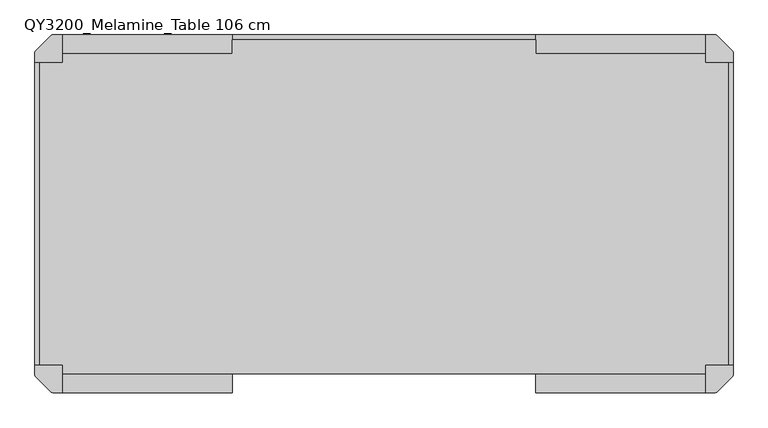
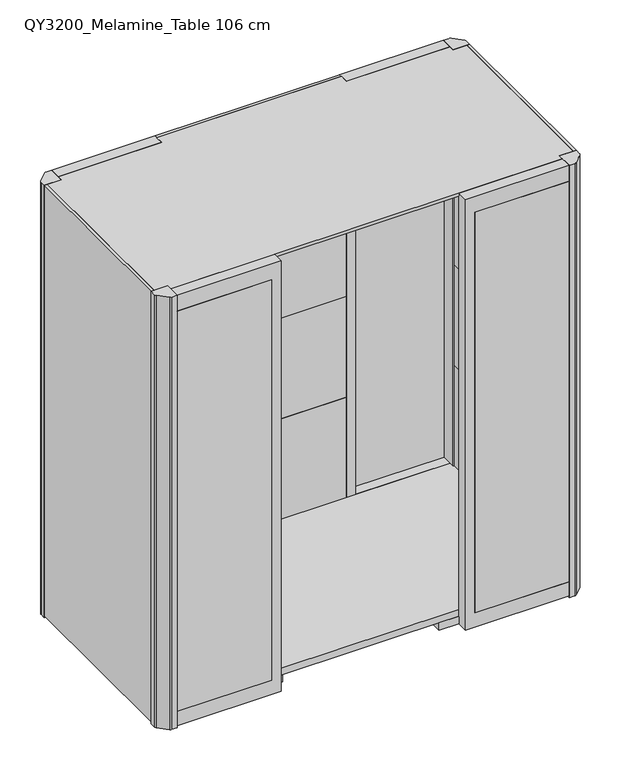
"""IFC4 building model written with IfcOpenShell, lengths in millimetres: furniture geometry, Qyos_200 : QY3200_Melamine_Table 106 cm."""

import ifcopenshell
import ifcopenshell.guid

model = None  # the IFC model being written
_history = None  # IfcOwnerHistory: only IFC2X3 demands one
_inside = {}  # id of a spatial element -> (the spatial element, [elements in it])
_under = {}  # id of a project, library or spatial element -> (it, [spatial elements below it])
_declared = {}  # id of a project -> (the project, [libraries it declares])
_typed = {}  # id of a type object -> (the type object, [elements of that type])
_made_of = {}  # id of a material, layer set ... -> (it, [elements and type objects made of it])


def new_model(schema):
    """Start an empty IFC model of exactly this schema.

    Asked for "IFC4X3", IfcOpenShell would pick the latest addendum, in which some entities
    have other attributes; the version numbers below select the first issue.
    IFC2X3 requires an IfcOwnerHistory on every rooted entity: one is made here for all.
    """
    global model, _history
    if schema == "IFC4X3":
        model = ifcopenshell.file(schema_version=(4, 3, 0, 0))
    else:
        model = ifcopenshell.file(schema=schema)
    _inside.clear()
    _under.clear()
    _declared.clear()
    _typed.clear()
    _made_of.clear()
    _history = None
    if model.schema == "IFC2X3":
        org = make("IfcOrganization", Name="unknown")
        user = make(
            "IfcPersonAndOrganization",
            ThePerson=make("IfcPerson", FamilyName="unknown"),
            TheOrganization=org,
        )
        app = make(
            "IfcApplication",
            ApplicationDeveloper=org,
            Version="unknown",
            ApplicationFullName="unknown",
            ApplicationIdentifier="unknown",
        )
        _history = make(
            "IfcOwnerHistory",
            OwningUser=user,
            OwningApplication=app,
            ChangeAction="ADDED",
            CreationDate=0,
        )
    return model


def make(cls, **values):
    """One entity of the class cls with the attributes given. An attribute that is None is left unset."""
    return model.create_entity(
        cls, **{name: value for name, value in values.items() if value is not None}
    )


def rooted(cls, **values):
    """An entity with a GlobalId (a new one), such as an element, a storey or a relation."""
    return make(cls, GlobalId=ifcopenshell.guid.new(), OwnerHistory=_history, **values)


def si_unit(unit_type, name, prefix=None):
    """IfcSIUnit, for example si_unit("LENGTHUNIT", "METRE", prefix="MILLI")."""
    return make("IfcSIUnit", UnitType=unit_type, Prefix=prefix, Name=name)


def assignment(units):
    """IfcUnitAssignment: the units of a project."""
    return None if units is None else make("IfcUnitAssignment", Units=units)


def point(xyz):
    """IfcCartesianPoint."""
    return None if xyz is None else make("IfcCartesianPoint", Coordinates=xyz)


def direction(xyz):
    """IfcDirection."""
    return None if xyz is None else make("IfcDirection", DirectionRatios=xyz)


def frame(location, z_axis=None, x_axis=None):
    """IfcAxis2Placement3D, a coordinate frame: its origin and axes. An axis left out is left unset."""
    return make(
        "IfcAxis2Placement3D",
        Location=point(location),
        Axis=direction(z_axis),
        RefDirection=direction(x_axis),
    )


def frame_2d(location, x_axis=None):
    """IfcAxis2Placement2D, a coordinate frame in the plane: its origin and x axis."""
    return make(
        "IfcAxis2Placement2D", Location=point(location), RefDirection=direction(x_axis)
    )


def origin():
    """The frame at (0, 0, 0) with its axes left unset."""
    return frame((0.0, 0.0, 0.0))


def origin_with_axes():
    """The frame at (0, 0, 0) with the z axis (0, 0, 1) and the x axis (1, 0, 0) written out."""
    return frame((0.0, 0.0, 0.0), z_axis=(0.0, 0.0, 1.0), x_axis=(1.0, 0.0, 0.0))


def place(relative_to, where):
    """IfcLocalPlacement: puts the frame where relative to a parent placement (None: the world)."""
    return make(
        "IfcLocalPlacement", PlacementRelTo=relative_to, RelativePlacement=where
    )


def context(
    kind, dimensions, precision=None, world=None, true_north=None, identifier=None
):
    """IfcGeometricRepresentationContext, for example the 3D "Model" context."""
    return make(
        "IfcGeometricRepresentationContext",
        ContextIdentifier=identifier,
        ContextType=kind,
        CoordinateSpaceDimension=dimensions,
        Precision=precision,
        WorldCoordinateSystem=world,
        TrueNorth=true_north,
    )


def project(units=None, contexts=None):
    """IfcProject with its units and contexts."""
    return rooted(
        "IfcProject",
        Name="project",
        RepresentationContexts=contexts,
        UnitsInContext=assignment(units),
    )


def spatial(cls, under=None, at=None, **own):
    """A site, building, storey or space (cls), placed at a placement, below another one or the project."""
    s = rooted(cls, ObjectPlacement=at, **own)
    if under is not None:
        _under.setdefault(under.id(), (under, []))[1].append(s)
    return s


def polyline(points):
    """IfcPolyline through the points."""
    return make("IfcPolyline", Points=[point(p) for p in points])


def circle_curve(where, radius):
    """IfcCircle in the frame where."""
    return make("IfcCircle", Position=where, Radius=radius)


def trimmed(basis, trim1, trim2, sense, master):
    """IfcTrimmedCurve: the piece of a basis curve between two trims."""
    return make(
        "IfcTrimmedCurve",
        BasisCurve=basis,
        Trim1=trim1,
        Trim2=trim2,
        SenseAgreement=sense,
        MasterRepresentation=master,
    )


def segment(curve, same_sense, transition):
    """IfcCompositeCurveSegment."""
    return make(
        "IfcCompositeCurveSegment",
        Transition=transition,
        SameSense=same_sense,
        ParentCurve=curve,
    )


def composite_curve(segments, self_intersect=None):
    """IfcCompositeCurve: segments joined end to end."""
    return make("IfcCompositeCurve", Segments=segments, SelfIntersect=self_intersect)


def outline(outer, holes=None, kind="AREA"):
    """IfcArbitraryClosedProfileDef: a profile drawn as a closed curve; with holes, ...WithVoids."""
    if holes is None:
        return make("IfcArbitraryClosedProfileDef", ProfileType=kind, OuterCurve=outer)
    return make(
        "IfcArbitraryProfileDefWithVoids",
        ProfileType=kind,
        OuterCurve=outer,
        InnerCurves=holes,
    )


def extrude(swept, where, along, depth):
    """IfcExtrudedAreaSolid: the profile swept, set in the frame where, extruded along a direction by depth."""
    return make(
        "IfcExtrudedAreaSolid",
        SweptArea=swept,
        Position=where,
        ExtrudedDirection=direction(along),
        Depth=depth,
    )


def shape(context_of_items, identifier, shape_type, items):
    """IfcShapeRepresentation: the items that make up one representation, for example the "Body"."""
    return make(
        "IfcShapeRepresentation",
        ContextOfItems=context_of_items,
        RepresentationIdentifier=identifier,
        RepresentationType=shape_type,
        Items=items,
    )


def source(mapping_origin, context_of_items, identifier, shape_type, items):
    """IfcRepresentationMap: a shape defined once, which mapped items show again and again."""
    return make(
        "IfcRepresentationMap",
        MappingOrigin=mapping_origin,
        MappedRepresentation=shape(context_of_items, identifier, shape_type, items),
    )


def transform(
    local_origin,
    x_axis=None,
    y_axis=None,
    z_axis=None,
    scale=None,
    scale2=None,
    scale3=None,
    uniform=True,
):
    """IfcCartesianTransformationOperator3D, or its non-uniform kind. x_axis, y_axis, z_axis: its Axis1, 2, 3."""
    if uniform:
        return make(
            "IfcCartesianTransformationOperator3D",
            Axis1=direction(x_axis),
            Axis2=direction(y_axis),
            LocalOrigin=point(local_origin),
            Scale=scale,
            Axis3=direction(z_axis),
        )
    return make(
        "IfcCartesianTransformationOperator3DnonUniform",
        Axis1=direction(x_axis),
        Axis2=direction(y_axis),
        LocalOrigin=point(local_origin),
        Scale=scale,
        Axis3=direction(z_axis),
        Scale2=scale2,
        Scale3=scale3,
    )


def mapped(mapping_source, mapping_target):
    """IfcMappedItem: shows the shape of a source again, moved by a transform."""
    return make(
        "IfcMappedItem", MappingSource=mapping_source, MappingTarget=mapping_target
    )


def made_of(thing, what):
    """Note that an element or type object is made of a material, layer set ...; save() writes the relation."""
    if what is not None:
        _made_of.setdefault(what.id(), (what, []))[1].append(thing)
    return thing


def element(
    cls,
    number,
    at=None,
    inside=None,
    cuts=None,
    type_object=None,
    material=None,
    context=None,
    identifier="Body",
    shape_type=None,
    held_by="IfcProductDefinitionShape",
    body=None,
    shapes=None,
    **own,
):
    """One element of the class cls, such as IfcWall. Its Tag is "e" and its number.

    at: its placement. inside: the storey or other place that contains it. cuts: it is an
    opening in that element (IfcRelVoidsElement). A single representation is given by context,
    identifier, shape_type and body (its items); several are given by shapes. held_by: the class
    of the entity that holds the representations. save() writes the other relations.
    """
    e = rooted(cls, Tag="e%d" % number, ObjectPlacement=at, **own)
    if body is not None:
        shapes = [shape(context, identifier, shape_type, body)]
    if shapes is not None:
        e.Representation = make(held_by, Representations=shapes)
    if inside is not None:
        _inside.setdefault(inside.id(), (inside, []))[1].append(e)
    if cuts is not None:
        rooted(
            "IfcRelVoidsElement", RelatingBuildingElement=cuts, RelatedOpeningElement=e
        )
    if type_object is not None:
        _typed.setdefault(type_object.id(), (type_object, []))[1].append(e)
    return made_of(e, material)


def aggregate(whole, parts):
    """IfcRelAggregates: a whole, such as a stair, and the parts it consists of."""
    return rooted("IfcRelAggregates", RelatingObject=whole, RelatedObjects=parts)


def save(model, path):
    """Write the relations noted so far, then the file.

    IfcRelAggregates (storeys below a building ...), IfcRelContainedInSpatialStructure (elements
    in a storey), IfcRelDefinesByType, IfcRelAssociatesMaterial and IfcRelDeclares: one each for
    every whole, place, type object, material and project.
    """
    for whole, parts in _under.values():
        aggregate(whole, parts)
    for where, things in _inside.values():
        rooted(
            "IfcRelContainedInSpatialStructure",
            RelatedElements=things,
            RelatingStructure=where,
        )
    for kind, things in _typed.values():
        rooted("IfcRelDefinesByType", RelatedObjects=things, RelatingType=kind)
    for what, things in _made_of.values():
        rooted("IfcRelAssociatesMaterial", RelatedObjects=things, RelatingMaterial=what)
    for by, libraries in _declared.values():
        rooted("IfcRelDeclares", RelatingContext=by, RelatedDefinitions=libraries)
    model.write(path)


def plane_surface(at):
    """IfcPlane: the flat surface through the origin of the frame at, square to its z axis."""
    return make("IfcPlane", Position=at)


def cylinder_surface(at, radius):
    """IfcCylindricalSurface: all points at the distance radius from the z axis of the frame at."""
    return make("IfcCylindricalSurface", Position=at, Radius=radius)


def advanced_brep(points, edges, surfaces, faces):
    """IfcAdvancedBrep: a solid bounded by faces that lie on surfaces and meet in shared edges.

    An edge is (start, end): straight between two places in points (the first is 0);
    or (start, end, curve); or (start, end, curve, False) where it runs against its curve.
    A face is (place in surfaces, loops), or (place, loops, False) where it looks against
    its surface's normal. A loop lists edges by number (the first is 1), with a minus sign
    where the edge is run from its end to its start. The first loop is the outer one.
    """
    corners = [point(p) for p in points]
    vertices = [make("IfcVertexPoint", VertexGeometry=c) for c in corners]
    made = []
    for start, end, *more in edges:
        made.append(
            make(
                "IfcEdgeCurve",
                EdgeStart=vertices[start],
                EdgeEnd=vertices[end],
                EdgeGeometry=more[0] if more else make("IfcPolyline", Points=[corners[start], corners[end]]),
                SameSense=more[1] if len(more) > 1 else True,
            )
        )
    hull = []
    for where, loops, *sense in faces:
        bounds = []
        for j, loop in enumerate(loops):
            ring = [make("IfcOrientedEdge", EdgeElement=made[abs(k) - 1], Orientation=k > 0) for k in loop]
            bounds.append(
                make(
                    "IfcFaceOuterBound" if j == 0 else "IfcFaceBound",
                    Bound=make("IfcEdgeLoop", EdgeList=ring),
                    Orientation=True,
                )
            )
        hull.append(make("IfcAdvancedFace", Bounds=bounds, FaceSurface=surfaces[where], SameSense=sense[0] if sense else True))
    return make("IfcAdvancedBrep", Outer=make("IfcClosedShell", CfsFaces=hull))


def qy3200_melamine_table_106_cm_40c4295e(model_context):
    return source(origin(), model_context, "Body", "SolidModel", [
        advanced_brep(
        [(853.8585356, 382.0, 0.0), (900.1414644, 382.0, 0.0), (877.0, 382.0, 0.0), (853.8585356, 382.0, 7.0), (900.1414644, 382.0, 7.0), (867.3615446, 382.0, 7.0), (886.6384554, 382.0, 7.0), (867.3615446, 382.0, 17.0), (886.6384554, 382.0, 17.0), (877.0, 382.0, 17.0)],
        [
            (0, 1, circle_curve(frame((877.0, 382.0, 0.0), z_axis=(0.0, 0.0, -1.0), x_axis=(1.0, 0.0, 0.0)), 23.1414644)),
            (1, 2),
            (2, 0),
            (1, 0, circle_curve(frame((877.0, 382.0, 0.0), z_axis=(0.0, 0.0, -1.0), x_axis=(1.0, 0.0, 0.0)), 23.1414644)),
            (3, 4, circle_curve(frame((877.0, 382.0, 7.0), z_axis=(0.0, 0.0, -1.0), x_axis=(1.0, 0.0, 0.0)), 23.1414644)),
            (4, 1),
            (0, 3),
            (4, 3, circle_curve(frame((877.0, 382.0, 7.0), z_axis=(0.0, 0.0, -1.0), x_axis=(1.0, 0.0, 0.0)), 23.1414644)),
            (5, 6, circle_curve(frame((877.0, 382.0, 7.0), z_axis=(0.0, 0.0, -1.0), x_axis=(1.0, 0.0, 0.0)), 9.6384554)),
            (6, 4),
            (3, 5),
            (6, 5, circle_curve(frame((877.0, 382.0, 7.0), z_axis=(0.0, 0.0, -1.0), x_axis=(1.0, 0.0, 0.0)), 9.6384554)),
            (7, 8, circle_curve(frame((877.0, 382.0, 17.0), z_axis=(0.0, 0.0, -1.0), x_axis=(1.0, 0.0, 0.0)), 9.6384554)),
            (8, 6),
            (5, 7),
            (8, 7, circle_curve(frame((877.0, 382.0, 17.0), z_axis=(0.0, 0.0, -1.0), x_axis=(1.0, 0.0, 0.0)), 9.6384554)),
            (9, 8),
            (7, 9),
        ],
        [
            plane_surface(frame((877.0, 382.0, 0.0), z_axis=(0.0, 0.0, -1.0), x_axis=(1.0, 0.0, 0.0))),
            cylinder_surface(frame((877.0, 382.0, 1997.4144888), z_axis=(0.0, 0.0, 1.0), x_axis=(1.0, 0.0, 0.0)), 23.1414644),
            plane_surface(frame((877.0, 382.0, 7.0), z_axis=(0.0, 0.0, 1.0), x_axis=(1.0, 0.0, 0.0))),
            cylinder_surface(frame((877.0, 382.0, 1997.4144888), z_axis=(0.0, 0.0, 1.0), x_axis=(1.0, 0.0, 0.0)), 9.6384554),
            plane_surface(frame((877.0, 382.0, 17.0), z_axis=(0.0, 0.0, 1.0), x_axis=(1.0, 0.0, 0.0))),
        ],
        [
            (0, [[1, 2, 3]]),
            (0, [[4, -3, -2]]),
            (1, [[5, 6, -1, 7]]),
            (1, [[8, -7, -4, -6]]),
            (2, [[9, 10, -5, 11]]),
            (2, [[12, -11, -8, -10]]),
            (3, [[13, 14, -9, 15]]),
            (3, [[16, -15, -12, -14]]),
            (4, [[17, -13, 18]]),
            (4, [[-18, -16, -17]]),
        ],
    ),
        extrude(outline(composite_curve([segment(trimmed(circle_curve(frame_2d((877.0, 382.0)), 23.1414644), [point((853.8585356, 382.0))], [point((900.1414644, 382.0))], False, "CARTESIAN"), True, "CONTINUOUS"), segment(trimmed(circle_curve(frame_2d((877.0, 382.0)), 23.1414644), [point((900.1414644, 382.0))], [point((853.8585356, 382.0))], False, "CARTESIAN"), True, "CONTINUOUS")], self_intersect=False)), origin_with_axes(), (0.0, 0.0, 1.0), 7.0),
        extrude(outline(composite_curve([segment(polyline([(-945.0, 445.0), (-1025.0, 445.0), (-1025.0, 472.5536246)]), True, "CONTINUOUS"), segment(trimmed(circle_curve(frame_2d((-1013.0024364, 472.3118252)), 12.0), [point((-1025.0, 472.5536246))], [point((-1021.7960176, 480.4771745))], False, "CARTESIAN"), True, "CONTINUOUS"), segment(trimmed(circle_curve(frame_2d((-443.4303831, -56.568803)), 789.2560985), [point((-1021.7960176, 480.4771745))], [point((-980.4763607, 521.7968315))], False, "CARTESIAN"), True, "CONTINUOUS"), segment(trimmed(circle_curve(frame_2d((-972.3110114, 513.0032502)), 12.0), [point((-980.4763607, 521.7968315))], [point((-972.5902872, 525.0))], False, "CARTESIAN"), True, "CONTINUOUS"), segment(polyline([(-972.5902872, 525.0), (-945.0, 525.0), (-945.0, 445.0)]), True, "CONTINUOUS")], self_intersect=False)), origin_with_axes(), (0.0, 0.0, 1.0), 2202.1),
        extrude(outline(composite_curve([segment(polyline([(945.0, 445.0), (945.0, 525.0), (972.5536246, 525.0)]), True, "CONTINUOUS"), segment(trimmed(circle_curve(frame_2d((972.3118252, 513.0024364)), 12.0), [point((972.5536246, 525.0))], [point((980.4771745, 521.7960176))], False, "CARTESIAN"), True, "CONTINUOUS"), segment(trimmed(circle_curve(frame_2d((443.431197, -56.5696169)), 789.2560985), [point((980.4771745, 521.7960176))], [point((1021.7968315, 480.4763607))], False, "CARTESIAN"), True, "CONTINUOUS"), segment(trimmed(circle_curve(frame_2d((1013.0032502, 472.3110114)), 12.0), [point((1021.7968315, 480.4763607))], [point((1025.0, 472.5902872))], False, "CARTESIAN"), True, "CONTINUOUS"), segment(polyline([(1025.0, 472.5902872), (1025.0, 445.0), (945.0, 445.0)]), True, "CONTINUOUS")], self_intersect=False)), origin_with_axes(), (0.0, 0.0, 1.0), 2202.1),
        extrude(outline(composite_curve([segment(polyline([(945.0, -445.0), (1025.0, -445.0), (1025.0, -472.5536246)]), True, "CONTINUOUS"), segment(trimmed(circle_curve(frame_2d((1013.0024364, -472.3118252)), 12.0), [point((1025.0, -472.5536246))], [point((1021.7960176, -480.4771745))], False, "CARTESIAN"), True, "CONTINUOUS"), segment(trimmed(circle_curve(frame_2d((443.4303831, 56.568803)), 789.2560985), [point((1021.7960176, -480.4771745))], [point((980.4763607, -521.7968315))], False, "CARTESIAN"), True, "CONTINUOUS"), segment(trimmed(circle_curve(frame_2d((972.3110114, -513.0032502)), 12.0), [point((980.4763607, -521.7968315))], [point((972.5902872, -525.0))], False, "CARTESIAN"), True, "CONTINUOUS"), segment(polyline([(972.5902872, -525.0), (945.0, -525.0), (945.0, -445.0)]), True, "CONTINUOUS")], self_intersect=False)), origin_with_axes(), (0.0, 0.0, 1.0), 2202.1),
        extrude(outline(composite_curve([segment(polyline([(-945.0, -445.0), (-945.0, -525.0), (-972.5536246, -525.0)]), True, "CONTINUOUS"), segment(trimmed(circle_curve(frame_2d((-972.3118252, -513.0024364)), 12.0), [point((-972.5536246, -525.0))], [point((-980.4771745, -521.7960176))], False, "CARTESIAN"), True, "CONTINUOUS"), segment(trimmed(circle_curve(frame_2d((-443.431197, 56.5696169)), 789.2560985), [point((-980.4771745, -521.7960176))], [point((-1021.7968315, -480.4763607))], False, "CARTESIAN"), True, "CONTINUOUS"), segment(trimmed(circle_curve(frame_2d((-1013.0032502, -472.3110114)), 12.0), [point((-1021.7968315, -480.4763607))], [point((-1025.0, -472.5902872))], False, "CARTESIAN"), True, "CONTINUOUS"), segment(polyline([(-1025.0, -472.5902872), (-1025.0, -445.0), (-945.0, -445.0)]), True, "CONTINUOUS")], self_intersect=False)), origin_with_axes(), (0.0, 0.0, 1.0), 2202.1),
        extrude(outline(polyline([(-445.0, 470.0), (-445.0, 511.0), (445.0, 511.0), (445.0, 470.0), (945.0, 470.0), (945.0, 445.0), (1011.0, 445.0), (1011.0, -445.0), (945.0, -445.0), (945.0, -469.9956819), (-945.0, -469.9956819), (-945.0, -445.0), (-1011.0, -445.0), (-1011.0, 445.0), (-945.0, 445.0), (-945.0, 470.0), (-445.0, 470.0)])), frame((0.0, 0.0, 2186.1), z_axis=(0.0, 0.0, 1.0), x_axis=(1.0, 0.0, 0.0)), (0.0, 0.0, 1.0), 16.0),
        extrude(outline(polyline([(-945.0, 525.0), (-490.0089845, 525.0), (-490.0089845, 520.0), (-945.0, 520.0), (-945.0, 525.0)])), frame((0.0, 0.0, 82.0), z_axis=(0.0, 0.0, 1.0), x_axis=(1.0, 0.0, 0.0)), (0.0, 0.0, 1.0), 2040.1),
        extrude(outline(polyline([(490.0089845, 525.0), (945.0, 525.0), (945.0, 520.0), (490.0089845, 520.0), (490.0089845, 525.0)])), frame((0.0, 0.0, 82.0), z_axis=(0.0, 0.0, 1.0), x_axis=(1.0, 0.0, 0.0)), (0.0, 0.0, 1.0), 2040.1),
        extrude(outline(polyline([(2122.1, -490.0089845), (82.0, -490.0089845), (82.0, -945.0), (10.0, -945.0), (10.0, -445.0), (2202.1, -445.0), (2202.1, -945.0), (2122.1, -945.0), (2122.1, -490.0089845)])), frame((0.0, 469.9956819, 0.0), z_axis=(0.0, 1.0, 0.0), x_axis=(0.0, 0.0, 1.0)), (0.0, 0.0, 1.0), 55.0043181),
        extrude(outline(polyline([(2122.1, 490.0089845), (2122.1, 945.0), (2202.1, 945.0), (2202.1, 445.0), (10.0, 445.0), (10.0, 945.0), (82.0, 945.0), (82.0, 490.0089845), (2122.1, 490.0089845)])), frame((0.0, 469.9956819, 0.0), z_axis=(0.0, 1.0, 0.0), x_axis=(0.0, 0.0, 1.0)), (0.0, 0.0, 1.0), 55.0043181),
        extrude(outline(polyline([(-490.0089845, -525.0), (-945.0, -525.0), (-945.0, -520.0), (-490.0089845, -520.0), (-490.0089845, -525.0)])), frame((0.0, 0.0, 82.0), z_axis=(0.0, 0.0, 1.0), x_axis=(1.0, 0.0, 0.0)), (0.0, 0.0, 1.0), 2040.1),
        extrude(outline(polyline([(945.0, -525.0), (490.0089845, -525.0), (490.0089845, -520.0), (945.0, -520.0), (945.0, -525.0)])), frame((0.0, 0.0, 82.0), z_axis=(0.0, 0.0, 1.0), x_axis=(1.0, 0.0, 0.0)), (0.0, 0.0, 1.0), 2040.1),
        extrude(outline(polyline([(-857.0, -469.9956819), (-897.0, -469.9956819), (-897.0, 470.0), (-857.0, 470.0), (-857.0, -469.9956819)])), frame((0.0, 0.0, 10.0), z_axis=(0.0, 0.0, 1.0), x_axis=(1.0, 0.0, 0.0)), (0.0, 0.0, 1.0), 37.0),
        extrude(outline(polyline([(-405.0, -469.9956819), (-445.0, -469.9956819), (-445.0, 470.0), (-405.0, 470.0), (-405.0, -469.9956819)])), frame((0.0, 0.0, 10.0), z_axis=(0.0, 0.0, 1.0), x_axis=(1.0, 0.0, 0.0)), (0.0, 0.0, 1.0), 37.0),
        extrude(outline(polyline([(897.0, -469.9956819), (857.0, -469.9956819), (857.0, 470.0), (897.0, 470.0), (897.0, -469.9956819)])), frame((0.0, 0.0, 10.0), z_axis=(0.0, 0.0, 1.0), x_axis=(1.0, 0.0, 0.0)), (0.0, 0.0, 1.0), 37.0),
        extrude(outline(polyline([(349.5486306, 470.0), (445.0557256, 470.0), (445.0557256, -469.9956819), (349.5486306, -469.9956819), (349.5486306, 470.0)])), frame((0.0, 0.0, 10.0), z_axis=(0.0, 0.0, 1.0), x_axis=(1.0, 0.0, 0.0)), (0.0, 0.0, 1.0), 37.0),
        extrude(outline(polyline([(2122.1, -490.0089845), (82.0, -490.0089845), (82.0, -945.0), (10.0, -945.0), (10.0, -445.0), (2202.1, -445.0), (2202.1, -945.0), (2122.1, -945.0), (2122.1, -490.0089845)])), frame((0.0, -525.0, 0.0), z_axis=(0.0, 1.0, 0.0), x_axis=(0.0, 0.0, 1.0)), (0.0, 0.0, 1.0), 55.0043181),
        extrude(outline(polyline([(2122.1, 490.0089845), (2122.1, 945.0), (2202.1, 945.0), (2202.1, 445.0), (10.0, 445.0), (10.0, 945.0), (82.0, 945.0), (82.0, 490.0089845), (2122.1, 490.0089845)])), frame((0.0, -525.0, 0.0), z_axis=(0.0, 1.0, 0.0), x_axis=(0.0, 0.0, 1.0)), (0.0, 0.0, 1.0), 55.0043181),
        extrude(outline(polyline([(-951.0, 445.0), (-945.0, 445.0), (-945.0, 470.0), (945.0, 470.0), (945.0, 445.0), (951.0, 445.0), (951.0, -445.0), (945.0, -445.0), (945.0, -469.9956819), (-945.0, -469.9956819), (-945.0, -445.0), (-951.0, -445.0), (-951.0, 445.0)])), frame((0.0, 0.0, 47.0), z_axis=(0.0, 0.0, 1.0), x_axis=(1.0, 0.0, 0.0)), (0.0, 0.0, 1.0), 35.0),
        extrude(outline(polyline([(970.0, -444.9498873), (951.0, -444.9498873), (951.0, 445.0024364), (970.0, 445.0024364), (970.0, -444.9498873)])), frame((0.0, 0.0, 1617.9823403), z_axis=(0.0, 0.0, 1.0), x_axis=(1.0, 0.0, 0.0)), (0.0, 0.0, 1.0), 504.1176597),
        extrude(outline(polyline([(-970.0, -445.0), (-970.0, 445.0), (-951.0, 445.0), (-951.0, -445.0), (-970.0, -445.0)])), frame((0.0, 0.0, 1617.9823403), z_axis=(0.0, 0.0, 1.0), x_axis=(1.0, 0.0, 0.0)), (0.0, 0.0, 1.0), 504.1176597),
        extrude(outline(polyline([(-445.0, 470.0), (-445.0, 489.0), (445.0557256, 489.0), (445.0557256, 470.0), (-445.0, 470.0)])), frame((0.0, 0.0, 1617.9823403), z_axis=(0.0, 0.0, 1.0), x_axis=(1.0, 0.0, 0.0)), (0.0, 0.0, 1.0), 504.1176597),
        extrude(outline(polyline([(970.0, -445.0), (951.0, -445.0), (951.0, 445.0), (970.0, 445.0), (970.0, -445.0)])), frame((0.0, 0.0, 1106.0116287), z_axis=(0.0, 0.0, 1.0), x_axis=(1.0, 0.0, 0.0)), (0.0, 0.0, 1.0), 511.9707116),
        extrude(outline(polyline([(-970.0, -445.0), (-970.0, 445.0), (-951.0, 445.0), (-951.0, -445.0), (-970.0, -445.0)])), frame((0.0, 0.0, 1106.0116287), z_axis=(0.0, 0.0, 1.0), x_axis=(1.0, 0.0, 0.0)), (0.0, 0.0, 1.0), 511.9707116),
        extrude(outline(polyline([(-445.0, 470.0), (-445.0, 489.0), (445.0557256, 489.0), (445.0557256, 470.0), (-445.0, 470.0)])), frame((0.0, 0.0, 1106.0116287), z_axis=(0.0, 0.0, 1.0), x_axis=(1.0, 0.0, 0.0)), (0.0, 0.0, 1.0), 511.9707116),
        extrude(outline(polyline([(970.0, -445.0), (951.0, -445.0), (951.0, 445.0), (970.0, 445.0), (970.0, -445.0)])), frame((0.0, 0.0, 593.9823403), z_axis=(0.0, 0.0, 1.0), x_axis=(1.0, 0.0, 0.0)), (0.0, 0.0, 1.0), 512.0292884),
        extrude(outline(polyline([(-970.0, -445.0), (-970.0, 445.0), (-951.0, 445.0), (-951.0, -445.0), (-970.0, -445.0)])), frame((0.0, 0.0, 593.9823403), z_axis=(0.0, 0.0, 1.0), x_axis=(1.0, 0.0, 0.0)), (0.0, 0.0, 1.0), 512.0292884),
        extrude(outline(polyline([(-445.0, 470.0), (-445.0, 489.0), (445.0557256, 489.0), (445.0557256, 470.0), (-445.0, 470.0)])), frame((0.0, 0.0, 593.9823403), z_axis=(0.0, 0.0, 1.0), x_axis=(1.0, 0.0, 0.0)), (0.0, 0.0, 1.0), 512.0292884),
        extrude(outline(polyline([(970.0, -445.0), (951.0, -445.0), (951.0, 445.0), (970.0, 445.0), (970.0, -445.0)])), frame((0.0, 0.0, 77.0), z_axis=(0.0, 0.0, 1.0), x_axis=(1.0, 0.0, 0.0)), (0.0, 0.0, 1.0), 516.9823403),
        extrude(outline(polyline([(-970.0, -445.0), (-970.0, 445.0), (-951.0, 445.0), (-951.0, -445.0), (-970.0, -445.0)])), frame((0.0, 0.0, 77.0), z_axis=(0.0, 0.0, 1.0), x_axis=(1.0, 0.0, 0.0)), (0.0, 0.0, 1.0), 516.9823403),
        extrude(outline(polyline([(-445.0, 470.0), (-445.0, 489.0), (445.0557256, 489.0), (445.0557256, 470.0), (-445.0, 470.0)])), frame((0.0, 0.0, 77.0), z_axis=(0.0, 0.0, 1.0), x_axis=(1.0, 0.0, 0.0)), (0.0, 0.0, 1.0), 516.9823403),
        extrude(outline(polyline([(-1025.0, -445.0), (-1025.0, 445.0), (-1011.0, 445.0), (-1011.0, -445.0), (-1025.0, -445.0)])), frame((0.0, 0.0, 10.0), z_axis=(0.0, 0.0, 1.0), x_axis=(1.0, 0.0, 0.0)), (0.0, 0.0, 1.0), 2192.1),
        extrude(outline(polyline([(1025.0, -445.0), (1011.0, -445.0), (1011.0, 445.0), (1025.0, 445.0), (1025.0, -445.0)])), frame((0.0, 0.0, 10.0), z_axis=(0.0, 0.0, 1.0), x_axis=(1.0, 0.0, 0.0)), (0.0, 0.0, 1.0), 2192.1),
        extrude(outline(polyline([(445.0557256, 525.0), (445.0557256, 511.0), (-445.0, 511.0), (-445.0, 525.0), (445.0557256, 525.0)])), frame((0.0, 0.0, 10.0), z_axis=(0.0, 0.0, 1.0), x_axis=(1.0, 0.0, 0.0)), (0.0, 0.0, 1.0), 2192.1),
    ])


if __name__ == "__main__":
    model = new_model("IFC4")
    model_context = context("Model", 3, world=origin())
    ifc_project = project(units=[si_unit("LENGTHUNIT", "METRE", prefix="MILLI")], contexts=[model_context])
    site = spatial("IfcSite", under=ifc_project)
    building = spatial("IfcBuilding", under=site)
    placement = place(None, origin())
    qy3200_melamine_table_106_cm_shape = qy3200_melamine_table_106_cm_40c4295e(model_context)
    element("IfcFurniture", 1, ObjectType="Qyos_200 : QY3200_Melamine_Table 106 cm", at=placement, inside=building, context=model_context, shape_type="MappedRepresentation", body=[
        mapped(qy3200_melamine_table_106_cm_shape, transform((0.0, 0.0, 0.0), x_axis=(1.0, 0.0, 0.0), y_axis=(0.0, 1.0, 0.0), z_axis=(0.0, 0.0, 1.0))),
    ])
    save(model, "model.ifc")
